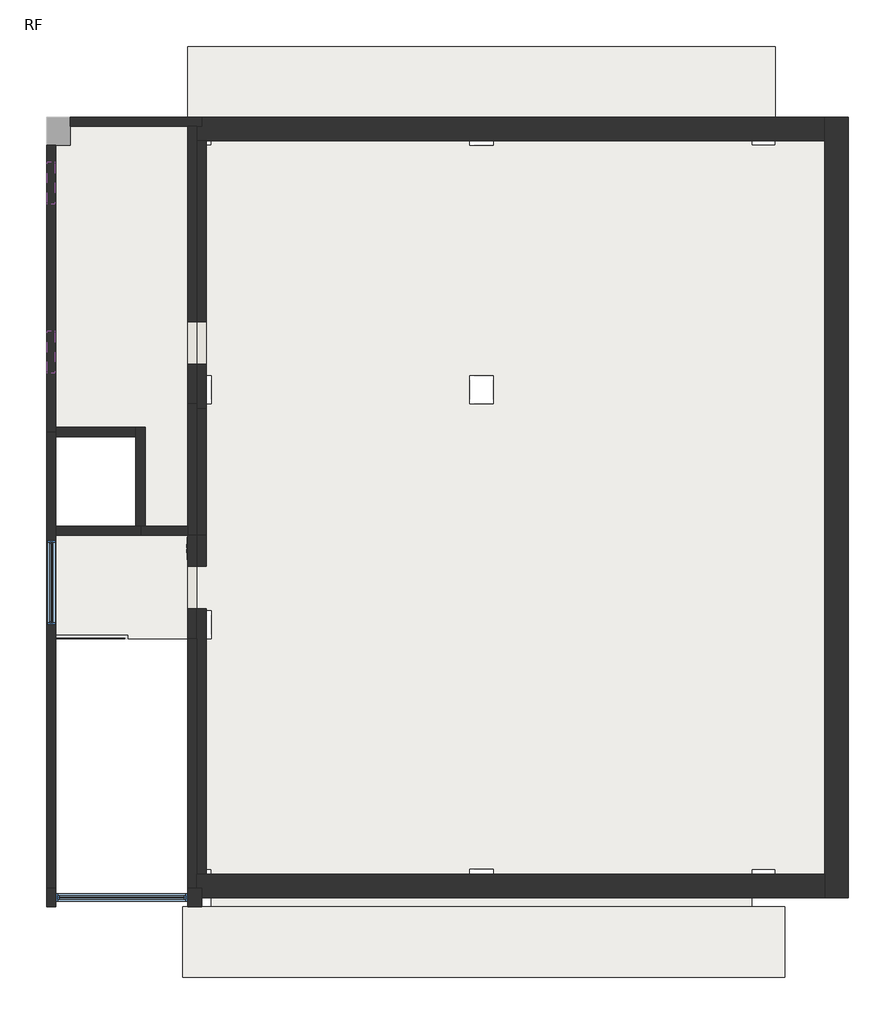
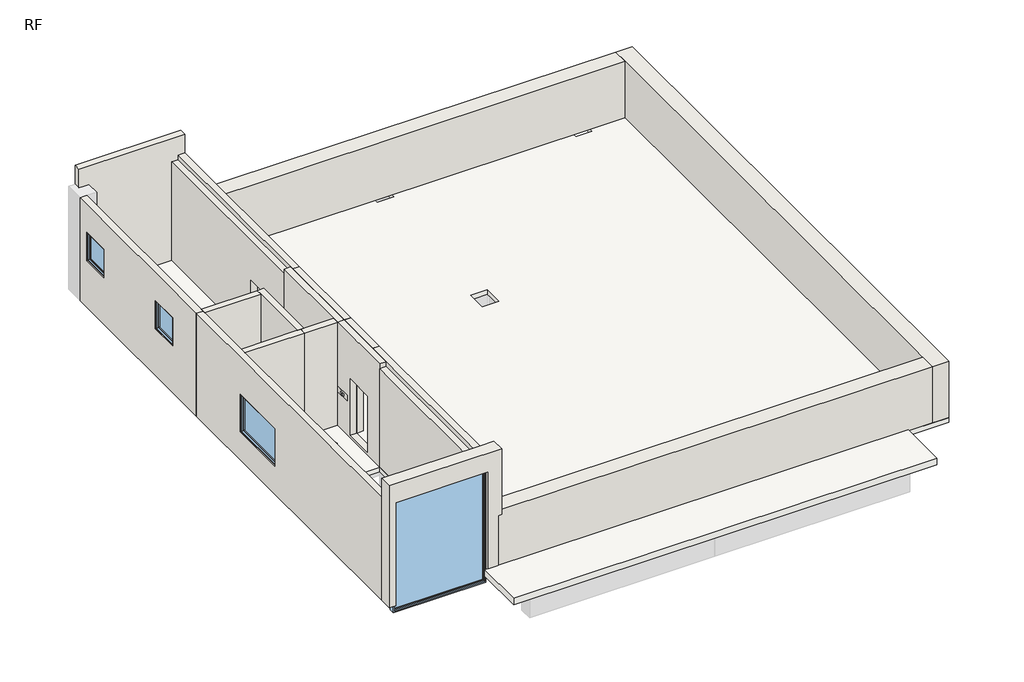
# One storey, part 1 of 2: 20 walls, 4 windows, 2 slabs.
"""IFC4 building model written with IfcOpenShell, lengths in millimetres."""

from ifc_helpers import new_model, si_unit, frame, origin, place, context, project, spatial, polyline, outline, extrude, faceted_brep, transform, mapped, element, save
from components import window_16c43cb3, window_f2f41d25, window_07c90ac9, window_3f7671e2

model = new_model("IFC4")

# Units and contexts
model_context = context("Model", 3, world=origin())
ifc_project = project(units=[si_unit("LENGTHUNIT", "METRE", prefix="MILLI")], contexts=[model_context])

# Site, building, storey
site = spatial("IfcSite", under=ifc_project)
building = spatial("IfcBuilding", under=site)
storey = spatial("IfcBuildingStorey", under=building, Name="RF", Elevation=18600.0)

# Slabs
placement = place(None, origin())
element("IfcSlab", 1, ObjectType="SL100-구조 바닥 150", at=placement, inside=storey, context=model_context, shape_type="Brep", body=[
    faceted_brep([(-50.0, 5200.0, 18450.0), (-50.0, 7400.0, 18450.0), (-50.0, 7600.0, 18450.0), (1650.0, 7600.0, 18450.0), (1650.0, 9500.0, 18450.0), (-50.0, 9500.0, 18450.0), (-50.0, 9700.0, 18450.0), (-50.0, 10200.0, 18450.0), (-50.0, 10800.0, 18450.0), (-50.0, 16100.0, 18450.0), (2750.0, 16100.0, 18450.0), (2750.0, 15700.0, 18450.0), (3150.0, 15700.0, 18450.0), (3250.0, 15700.0, 18450.0), (3250.0, 15900.0, 18450.0), (3250.0, 16300.0, 18450.0), (2750.0, 16300.0, 18450.0), (2750.0, 17800.0, 18450.0), (2937.3, 17800.0, 18450.0), (8850.0, 17800.0, 18450.0), (14750.0, 17800.0, 18450.0), (15250.0, 17800.0, 18450.0), (15250.0, 16300.0, 18450.0), (14750.0, 16300.0, 18450.0), (14750.0, 15900.0, 18450.0), (14750.0, 15700.0, 18450.0), (14850.0, 15700.0, 18450.0), (15250.0, 15700.0, 18450.0), (16800.0, 16300.0, 18450.0), (16800.0, -300.0, 18450.0), (15250.0, -300.0, 18450.0), (15250.0, 300.0, 18450.0), (14850.0, 300.0, 18450.0), (14750.0, 300.0, 18450.0), (14750.0, 100.0, 18450.0), (14750.0, -300.0, 18450.0), (14750.0, -1400.0, 18450.0), (14750.0, -1800.0, 18450.0), (8850.0, -1800.0, 18450.0), (3249.5, -1800.0, 18450.0), (3249.5, -1400.0, 18450.0), (3249.5, -300.0, 18450.0), (3250.0, -300.0, 18450.0), (3250.0, 100.0, 18450.0), (3250.0, 300.0, 18450.0), (3150.0, 300.0, 18450.0), (2750.0, 300.0, 18450.0), (2750.0, -150.0, 18450.0), (2749.5, -150.0, 18450.0), (2749.5, 5200.0, 18450.0), (2750.0, 5800.0, 18450.0), (2750.0, 5200.0, 18450.0), (3150.0, 5200.0, 18450.0), (3250.0, 5200.0, 18450.0), (3250.0, 5300.0, 18450.0), (3250.0, 5700.0, 18450.0), (3250.0, 5800.0, 18450.0), (3150.0, 5800.0, 18450.0), (2750.0, 10800.0, 18450.0), (2750.0, 10200.0, 18450.0), (3150.0, 10200.0, 18450.0), (3250.0, 10200.0, 18450.0), (3250.0, 10300.0, 18450.0), (3250.0, 10700.0, 18450.0), (3250.0, 10800.0, 18450.0), (3150.0, 10800.0, 18450.0), (8750.0, 300.0, 18450.0), (8750.0, 100.0, 18450.0), (8750.0, -300.0, 18450.0), (8850.0, -300.0, 18450.0), (9250.0, -300.0, 18450.0), (9250.0, 100.0, 18450.0), (9250.0, 300.0, 18450.0), (8850.0, 300.0, 18450.0), (8750.0, 5800.0, 18450.0), (8750.0, 5700.0, 18450.0), (8750.0, 5300.0, 18450.0), (8750.0, 5200.0, 18450.0), (8850.0, 5200.0, 18450.0), (9250.0, 5200.0, 18450.0), (9250.0, 5300.0, 18450.0), (9250.0, 5700.0, 18450.0), (9250.0, 5800.0, 18450.0), (8850.0, 5800.0, 18450.0), (8750.0, 10800.0, 18450.0), (8750.0, 10700.0, 18450.0), (8750.0, 10300.0, 18450.0), (8750.0, 10200.0, 18450.0), (8850.0, 10200.0, 18450.0), (9250.0, 10200.0, 18450.0), (9250.0, 10300.0, 18450.0), (9250.0, 10700.0, 18450.0), (9250.0, 10800.0, 18450.0), (8850.0, 10800.0, 18450.0), (14750.0, 5800.0, 18450.0), (14750.0, 5700.0, 18450.0), (14750.0, 5300.0, 18450.0), (14750.0, 5200.0, 18450.0), (14850.0, 5200.0, 18450.0), (15250.0, 5200.0, 18450.0), (15250.0, 5300.0, 18450.0), (15250.0, 5700.0, 18450.0), (15250.0, 5800.0, 18450.0), (14850.0, 5800.0, 18450.0), (14750.0, 10800.0, 18450.0), (14750.0, 10700.0, 18450.0), (14750.0, 10300.0, 18450.0), (14750.0, 10200.0, 18450.0), (14850.0, 10200.0, 18450.0), (15250.0, 10200.0, 18450.0), (15250.0, 10300.0, 18450.0), (15250.0, 10700.0, 18450.0), (15250.0, 10800.0, 18450.0), (14850.0, 10800.0, 18450.0), (8750.0, 16300.0, 18450.0), (8750.0, 15900.0, 18450.0), (8750.0, 15700.0, 18450.0), (8850.0, 15700.0, 18450.0), (9250.0, 15700.0, 18450.0), (9250.0, 15900.0, 18450.0), (9250.0, 16300.0, 18450.0), (8850.0, 16300.0, 18450.0), (-50.0, 7600.0, 18600.0), (-50.0, 5200.0, 18600.0), (2749.5, 5200.0, 18600.0), (2749.5, -150.0, 18600.0), (2750.0, -150.0, 18600.0), (2750.0, 300.0, 18600.0), (3250.0, 300.0, 18600.0), (3250.0, -300.0, 18600.0), (3249.5, -300.0, 18600.0), (3249.5, -1800.0, 18600.0), (14750.0, -1800.0, 18600.0), (14750.0, -300.0, 18600.0), (14750.0, 300.0, 18600.0), (15250.0, 300.0, 18600.0), (15250.0, -300.0, 18600.0), (16800.0, -300.0, 18600.0), (16800.0, 16300.0, 18600.0), (15250.0, 16300.0, 18600.0), (15250.0, 15700.0, 18600.0), (14750.0, 15700.0, 18600.0), (14750.0, 16300.0, 18600.0), (15250.0, 17800.0, 18600.0), (2750.0, 17800.0, 18600.0), (2750.0, 16300.0, 18600.0), (3250.0, 16300.0, 18600.0), (3250.0, 15700.0, 18600.0), (2750.0, 15700.0, 18600.0), (2750.0, 16100.0, 18600.0), (-50.0, 16100.0, 18600.0), (-50.0, 9500.0, 18600.0), (1650.0, 9500.0, 18600.0), (1650.0, 7600.0, 18600.0), (8750.0, 10200.0, 18600.0), (8750.0, 10800.0, 18600.0), (9250.0, 10800.0, 18600.0), (9250.0, 10200.0, 18600.0), (8750.0, -300.0, 18600.0), (8750.0, 300.0, 18600.0), (9250.0, 300.0, 18600.0), (9250.0, -300.0, 18600.0), (2750.0, 5200.0, 18600.0), (2750.0, 5800.0, 18600.0), (3250.0, 5800.0, 18600.0), (3250.0, 5200.0, 18600.0), (2750.0, 10200.0, 18600.0), (2750.0, 10800.0, 18600.0), (3250.0, 10800.0, 18600.0), (3250.0, 10200.0, 18600.0), (8750.0, 15700.0, 18600.0), (8750.0, 16300.0, 18600.0), (9250.0, 16300.0, 18600.0), (9250.0, 15700.0, 18600.0), (8750.0, 5800.0, 18590.0), (8750.0, 5200.0, 18590.0), (9250.0, 5800.0, 18590.0), (9250.0, 5200.0, 18590.0), (14750.0, 5800.0, 18590.0), (14750.0, 5200.0, 18590.0), (15250.0, 5800.0, 18590.0), (15250.0, 5200.0, 18590.0), (14750.0, 10800.0, 18590.0), (14750.0, 10200.0, 18590.0), (15250.0, 10800.0, 18590.0), (15250.0, 10200.0, 18590.0)], [[[0, 1, 2, 3, 4, 5, 6, 7, 8, 9, 10, 11, 12, 13, 14, 15, 16, 17, 18, 19, 20, 21, 22, 23, 24, 25, 26, 27, 22, 28, 29, 30, 31, 32, 33, 34, 35, 36, 37, 38, 39, 40, 41, 42, 43, 44, 45, 46, 47, 48, 49], [50, 51, 52, 53, 54, 55, 56, 57], [58, 59, 60, 61, 62, 63, 64, 65], [66, 67, 68, 69, 70, 71, 72, 73], [74, 75, 76, 77, 78, 79, 80, 81, 82, 83], [84, 85, 86, 87, 88, 89, 90, 91, 92, 93], [94, 95, 96, 97, 98, 99, 100, 101, 102, 103], [104, 105, 106, 107, 108, 109, 110, 111, 112, 113], [114, 115, 116, 117, 118, 119, 120, 121]], [[122, 123, 124, 125, 126, 127, 128, 129, 130, 131, 132, 133, 134, 135, 136, 137, 138, 139, 140, 141, 142, 139, 143, 144, 145, 146, 147, 148, 149, 150, 151, 152, 153], [154, 155, 156, 157], [158, 159, 160, 161], [162, 163, 164, 165], [166, 167, 168, 169], [170, 171, 172, 173]], [[2, 1, 0, 123, 122]], [[10, 9, 150, 149]], [[124, 49, 48, 125]], [[0, 49, 124, 123]], [[144, 17, 16, 145]], [[21, 20, 19, 18, 17, 144, 143]], [[29, 28, 138, 137]], [[131, 39, 38, 37, 132]], [[30, 29, 137, 136]], [[22, 21, 143, 139]], [[28, 22, 139, 138]], [[3, 2, 122, 153]], [[4, 3, 153, 152]], [[5, 4, 152, 151]], [[9, 8, 7, 6, 5, 151, 150]], [[46, 127, 126, 47]], [[44, 128, 127, 46, 45]], [[128, 44, 43, 42, 129]], [[129, 42, 41, 130]], [[134, 33, 32, 31, 135]], [[50, 163, 162, 51]], [[56, 164, 163, 50, 57]], [[164, 56, 55, 54, 53, 165]], [[165, 53, 52, 51, 162]], [[58, 167, 166, 59]], [[64, 168, 167, 58, 65]], [[168, 64, 63, 62, 61, 169]], [[169, 61, 60, 59, 166]], [[148, 11, 10, 149]], [[15, 146, 145, 16]], [[146, 15, 14, 13, 147]], [[11, 148, 147, 13, 12]], [[66, 159, 158, 68, 67]], [[159, 66, 73, 72, 160]], [[160, 72, 71, 70, 161]], [[68, 158, 161, 70, 69]], [[174, 175, 77, 76, 75, 74]], [[176, 174, 74, 83, 82]], [[177, 176, 82, 81, 80, 79]], [[175, 177, 79, 78, 77]], [[175, 174, 176, 177]], [[84, 155, 154, 87, 86, 85]], [[155, 84, 93, 92, 156]], [[156, 92, 91, 90, 89, 157]], [[157, 89, 88, 87, 154]], [[170, 116, 115, 114, 171]], [[171, 114, 121, 120, 172]], [[172, 120, 119, 118, 173]], [[116, 170, 173, 118, 117]], [[178, 179, 97, 96, 95, 94]], [[180, 178, 94, 103, 102]], [[181, 180, 102, 101, 100, 99]], [[179, 181, 99, 98, 97]], [[179, 178, 180, 181]], [[182, 183, 107, 106, 105, 104]], [[184, 182, 104, 113, 112]], [[185, 184, 112, 111, 110, 109]], [[183, 185, 109, 108, 107]], [[183, 182, 184, 185]], [[23, 142, 141, 25, 24]], [[22, 139, 142, 23]], [[139, 22, 27, 140]], [[140, 27, 26, 25, 141]], [[41, 40, 39, 131, 130]], [[48, 47, 126, 125]], [[33, 134, 133, 132, 37, 36, 35, 34]], [[135, 31, 30, 136]]]),
])
element("IfcSlab", 2, ObjectType="SL100-구조 바닥 200", at=placement, inside=storey, context=model_context, shape_type="SweptSolid", body=[
    extrude(outline(polyline([(2650.0, -2000.0), (2650.0, -500.0), (15450.0, -500.0), (15450.0, -2000.0), (2650.0, -2000.0)])), frame((0.0, 0.0, 18600.0), z_axis=(0.0, 0.0, 1.0), x_axis=(1.0, 0.0, 0.0)), (0.0, 0.0, 1.0), 200.0),
])

# Walls
element("IfcWall", 3, ObjectType="WA100-구조 벽 500", at=placement, inside=storey, context=model_context, shape_type="Brep", body=[
    faceted_brep([(16800.0, -300.0, 18600.0), (16800.0, 16300.0, 18600.0), (16800.0, 16300.0, 20400.0), (16800.0, -300.0, 20400.0), (16300.0, -300.0, 18600.0), (16300.0, -300.0, 20400.0), (16300.0, 200.0, 20400.0), (16300.0, 15800.0, 20400.0), (16300.0, 16300.0, 20400.0), (16300.0, 16300.0, 18600.0), (16300.0, 15800.0, 18600.0), (16300.0, 200.0, 18600.0)], [[[0, 1, 2, 3]], [[4, 5, 6, 7, 8, 9, 10, 11]], [[1, 0, 4, 11, 10, 9]], [[3, 2, 8, 7, 6, 5]], [[0, 3, 5, 4]], [[2, 1, 9, 8]]]),
])
element("IfcWall", 4, ObjectType="WA100-구조 벽 500", at=placement, inside=storey, context=model_context, shape_type="Brep", body=[
    faceted_brep([(2950.0, -300.0, 20400.0), (2950.0, -300.0, 18600.0), (3250.0, -300.0, 18600.0), (8750.0, -300.0, 18600.0), (9250.0, -300.0, 18600.0), (14750.0, -300.0, 18600.0), (15250.0, -300.0, 18600.0), (16300.0, -300.0, 18600.0), (16300.0, -300.0, 20400.0), (2950.0, 200.0, 18600.0), (2950.0, 200.0, 20400.0), (16300.0, 200.0, 20400.0), (16300.0, 200.0, 18600.0), (2950.0, -100.0, 18600.0)], [[[0, 1, 2, 3, 4, 5, 6, 7, 8]], [[9, 10, 11, 12]], [[7, 6, 5, 4, 3, 2, 1, 13, 9, 12]], [[0, 8, 11, 10]], [[8, 7, 12, 11]], [[0, 10, 9, 13, 1]]]),
])
element("IfcWall", 5, ObjectType="WA100-구조 벽 500", at=placement, inside=storey, context=model_context, shape_type="Brep", body=[
    faceted_brep([(2950.0, 15800.0, 18600.0), (16300.0, 15800.0, 18600.0), (16300.0, 15800.0, 20400.0), (2950.0, 15800.0, 20400.0), (2950.0, 16300.0, 18600.0), (2950.0, 16300.0, 20400.0), (3050.0, 16300.0, 20400.0), (3150.0, 16300.0, 20400.0), (16300.0, 16300.0, 20400.0), (16300.0, 16300.0, 18600.0), (15250.0, 16300.0, 18600.0), (14750.0, 16300.0, 18600.0), (9250.0, 16300.0, 18600.0), (8750.0, 16300.0, 18600.0), (3250.0, 16300.0, 18600.0), (2950.0, 16100.0, 18600.0)], [[[0, 1, 2, 3]], [[4, 5, 6, 7, 8, 9, 10, 11, 12, 13, 14]], [[1, 0, 15, 4, 14, 13, 12, 11, 10, 9]], [[3, 2, 8, 7, 6, 5]], [[0, 3, 5, 4, 15]], [[2, 1, 9, 8]]]),
])
element("IfcWall", 6, ObjectType="WA100-구조 벽 200", at=placement, inside=storey, context=model_context, shape_type="Brep", body=[
    faceted_brep([(-50.0, -100.0, 18600.0), (-50.0, 7400.0, 18600.0), (-50.0, 7600.0, 18600.0), (-50.0, 9500.0, 18600.0), (-50.0, 9600.0, 18600.0), (-50.0, 9600.0, 21900.0), (-50.0, 9500.0, 21900.0), (-50.0, 7600.0, 21900.0), (-50.0, 7400.0, 21900.0), (-50.0, -100.0, 21900.0), (-50.0, 7300.0, 20700.0), (-50.0, 7300.0, 19500.0), (-50.0, 5500.0, 19500.0), (-50.0, 5500.0, 20700.0), (-250.0, 9600.0, 18600.0), (-250.0, -100.0, 18600.0), (-250.0, -100.0, 21900.0), (-250.0, 9600.0, 21900.0), (-250.0, 7300.0, 19500.0), (-250.0, 7300.0, 20700.0), (-250.0, 5500.0, 20700.0), (-250.0, 5500.0, 19500.0)], [[[0, 1, 2, 3, 4, 5, 6, 7, 8, 9], [10, 11, 12, 13]], [[14, 15, 16, 17], [18, 19, 20, 21]], [[4, 3, 2, 1, 0, 15, 14]], [[5, 4, 14, 17]], [[9, 8, 7, 6, 5, 17, 16]], [[10, 19, 18, 11]], [[11, 18, 21, 12]], [[12, 21, 20, 13]], [[19, 10, 13, 20]], [[0, 9, 16, 15]]]),
])
element("IfcWall", 7, ObjectType="WA100-구조 벽 200", at=placement, inside=storey, context=model_context, shape_type="Brep", body=[
    faceted_brep([(-50.0, 7400.0, 18600.0), (1750.0, 7400.0, 18600.0), (1750.0, 7400.0, 21900.0), (-50.0, 7400.0, 21900.0), (-50.0, 7600.0, 18600.0), (-50.0, 7600.0, 21900.0), (1650.0, 7600.0, 21900.0), (1750.0, 7600.0, 21900.0), (1750.0, 7600.0, 18600.0), (1650.0, 7600.0, 18600.0)], [[[0, 1, 2, 3]], [[4, 5, 6, 7, 8, 9]], [[1, 0, 4, 9, 8]], [[2, 1, 8, 7]], [[0, 3, 5, 4]], [[3, 2, 7, 6, 5]]]),
])
element("IfcWall", 8, ObjectType="WA100-구조 벽 200", at=placement, inside=storey, context=model_context, shape_type="Brep", body=[
    faceted_brep([(1850.0, 7600.0, 18600.0), (1850.0, 9700.0, 18600.0), (1850.0, 9700.0, 21900.0), (1850.0, 7600.0, 21900.0), (1650.0, 7600.0, 18600.0), (1650.0, 7600.0, 21900.0), (1650.0, 9500.0, 21900.0), (1650.0, 9700.0, 21900.0), (1650.0, 9700.0, 18600.0), (1650.0, 9500.0, 18600.0), (1750.0, 7600.0, 18600.0), (1750.0, 7600.0, 21900.0)], [[[0, 1, 2, 3]], [[4, 5, 6, 7, 8, 9]], [[1, 0, 10, 4, 9, 8]], [[2, 1, 8, 7]], [[3, 2, 7, 6, 5, 11]], [[0, 3, 11, 5, 4, 10]]]),
])
element("IfcWall", 9, ObjectType="WA100-구조 벽 200", at=placement, inside=storey, context=model_context, shape_type="Brep", body=[
    faceted_brep([(-50.0, 9500.0, 18600.0), (1650.0, 9500.0, 18600.0), (1650.0, 9500.0, 21900.0), (-50.0, 9500.0, 21900.0), (-50.0, 9700.0, 18600.0), (-50.0, 9700.0, 21900.0), (1650.0, 9700.0, 21900.0), (1650.0, 9700.0, 18600.0), (-50.0, 9600.0, 18600.0), (-50.0, 9600.0, 21900.0)], [[[0, 1, 2, 3]], [[4, 5, 6, 7]], [[1, 0, 8, 4, 7]], [[2, 1, 7, 6]], [[3, 2, 6, 5, 9]], [[0, 3, 9, 5, 4, 8]]]),
])
element("IfcWall", 10, ObjectType="WA100-구조 벽 200", at=placement, inside=storey, context=model_context, shape_type="Brep", body=[
    faceted_brep([(2950.0, 5200.0, 18600.0), (2950.0, 7400.0, 18600.0), (2950.0, 7400.0, 21900.0), (2950.0, 5200.0, 21900.0), (2950.0, 5200.0, 21750.0), (2950.0, 5845.0, 18680.0), (2950.0, 5845.0, 20480.0), (2950.0, 6745.0, 20480.0), (2950.0, 6745.0, 18680.0), (2750.0, 7400.0, 18600.0), (2750.0, 5800.0, 18600.0), (2750.0, 5200.0, 18600.0), (2750.0, 5200.0, 21750.0), (2750.0, 5200.0, 21900.0), (2750.0, 7400.0, 21900.0), (2750.0, 5845.0, 20480.0), (2750.0, 5845.0, 18680.0), (2750.0, 6745.0, 18680.0), (2750.0, 6745.0, 20480.0)], [[[0, 1, 2, 3, 4], [5, 6, 7, 8]], [[9, 10, 11, 12, 13, 14], [15, 16, 17, 18]], [[1, 0, 11, 10, 9]], [[2, 1, 9, 14]], [[3, 2, 14, 13]], [[0, 4, 3, 13, 12, 11]], [[5, 16, 15, 6]], [[6, 15, 18, 7]], [[7, 18, 17, 8]], [[16, 5, 8, 17]]]),
])
element("IfcWall", 11, ObjectType="WA100-구조 벽 200", at=placement, inside=storey, context=model_context, shape_type="Brep", body=[
    faceted_brep([(2950.0, -100.0, 21750.0), (2950.0, -100.0, 18600.0), (2950.0, 200.0, 18600.0), (2950.0, 5200.0, 18600.0), (2950.0, 5200.0, 21750.0), (2750.0, -100.0, 18600.0), (2750.0, -100.0, 21750.0), (2750.0, 5200.0, 21750.0), (2750.0, 5200.0, 18600.0), (2750.0, 300.0, 18600.0)], [[[0, 1, 2, 3, 4]], [[5, 6, 7, 8, 9]], [[3, 2, 1, 5, 9, 8]], [[4, 3, 8, 7]], [[0, 4, 7, 6]], [[0, 6, 5, 1]]]),
])
element("IfcWall", 12, ObjectType="WA100-구조 벽 200", at=placement, inside=storey, context=model_context, shape_type="Brep", body=[
    faceted_brep([(2750.0, 16100.0, 21750.0), (2750.0, 16100.0, 18600.0), (2750.0, 15700.0, 18600.0), (2750.0, 10800.0, 18600.0), (2750.0, 10200.0, 18600.0), (2750.0, 10200.0, 21750.0), (2750.0, 11045.0, 18680.0), (2750.0, 11945.0, 18680.0), (2750.0, 11945.0, 20480.0), (2750.0, 11045.0, 20480.0), (2950.0, 16100.0, 18600.0), (2950.0, 16100.0, 21750.0), (2950.0, 10200.0, 21750.0), (2950.0, 10200.0, 18600.0), (2950.0, 15800.0, 18600.0), (2950.0, 11045.0, 18680.0), (2950.0, 11045.0, 20480.0), (2950.0, 11945.0, 20480.0), (2950.0, 11945.0, 18680.0)], [[[0, 1, 2, 3, 4, 5], [6, 7, 8, 9]], [[10, 11, 12, 13, 14], [15, 16, 17, 18]], [[4, 3, 2, 1, 10, 14, 13]], [[5, 4, 13, 12]], [[0, 5, 12, 11]], [[16, 15, 6, 9]], [[17, 16, 9, 8]], [[18, 17, 8, 7]], [[15, 18, 7, 6]], [[0, 11, 10, 1]]]),
])
element("IfcWall", 13, ObjectType="WA100-구조 벽 200", at=placement, inside=storey, context=model_context, shape_type="Brep", body=[
    faceted_brep([(3150.0, 16100.0, 22500.0), (-50.0, 16100.0, 22500.0), (-50.0, 16100.0, 22300.0), (-50.0, 16100.0, 21900.0), (250.0, 16100.0, 21900.0), (250.0, 16100.0, 18600.0), (2750.0, 16100.0, 18600.0), (2950.0, 16100.0, 18600.0), (3050.0, 16100.0, 18600.0), (3050.0, 16100.0, 20400.0), (3150.0, 16100.0, 20400.0), (-50.0, 16300.0, 22500.0), (3150.0, 16300.0, 22500.0), (3150.0, 16300.0, 20400.0), (3050.0, 16300.0, 20400.0), (3050.0, 16300.0, 18600.0), (2750.0, 16300.0, 18600.0), (250.0, 16300.0, 18600.0), (250.0, 16300.0, 21900.0), (-50.0, 16300.0, 21900.0)], [[[0, 1, 2, 3, 4, 5, 6, 7, 8, 9, 10]], [[11, 12, 13, 14, 15, 16, 17, 18, 19]], [[15, 8, 7, 6, 5, 17, 16]], [[1, 0, 12, 11]], [[18, 4, 3, 19]], [[4, 18, 17, 5]], [[1, 11, 19, 3, 2]], [[8, 15, 14, 9]], [[10, 9, 14, 13]], [[10, 13, 12, 0]]]),
])
element("IfcWall", 14, ObjectType="WA100-구조 벽 400", at=placement, inside=storey, context=model_context, shape_type="Brep", body=[
    faceted_brep([(-250.0, -100.0, 22500.0), (2750.0, -100.0, 22500.0), (3150.0, -100.0, 22500.0), (3150.0, -100.0, 21900.0), (3150.0, -100.0, 20400.0), (3050.0, -100.0, 20400.0), (3050.0, -100.0, 18600.0), (2750.0, -100.0, 18600.0), (2750.0, -100.0, 21900.0), (-50.0, -100.0, 21900.0), (-50.0, -100.0, 18600.0), (-250.0, -100.0, 18600.0), (3150.0, -500.0, 22500.0), (-250.0, -500.0, 22500.0), (-250.0, -500.0, 18600.0), (-50.0, -500.0, 18600.0), (-50.0, -500.0, 21900.0), (2750.0, -500.0, 21900.0), (2750.0, -500.0, 18600.0), (3050.0, -500.0, 18600.0), (3050.0, -500.0, 20400.0), (3150.0, -500.0, 20400.0)], [[[0, 1, 2, 3, 4, 5, 6, 7, 8, 9, 10, 11]], [[12, 13, 14, 15, 16, 17, 18, 19, 20, 21]], [[6, 19, 18, 7]], [[14, 11, 10, 15]], [[2, 1, 0, 13, 12]], [[9, 16, 15, 10]], [[17, 8, 7, 18]], [[16, 9, 8, 17]], [[11, 14, 13, 0]], [[19, 6, 5, 20]], [[21, 20, 5, 4]], [[2, 12, 21, 4, 3]]]),
])
element("IfcWall", 15, ObjectType="WA100-구조 벽 200", at=placement, inside=storey, context=model_context, shape_type="Brep", body=[
    faceted_brep([(2950.0, 15800.0, 18600.0), (2950.0, 10100.0, 18600.0), (2950.0, 10100.0, 18681.0), (2950.0, 10100.0, 21900.0), (2950.0, 16100.0, 21900.0), (2950.0, 16100.0, 20400.0), (2950.0, 15800.0, 20400.0), (2950.0, 11045.0, 18680.0), (2950.0, 11945.0, 18680.0), (2950.0, 11945.0, 20480.0), (2950.0, 11045.0, 20480.0), (3150.0, 15800.0, 18600.0), (3150.0, 15800.0, 20400.0), (3150.0, 16100.0, 20400.0), (3150.0, 16100.0, 21900.0), (3150.0, 10100.0, 21900.0), (3150.0, 10100.0, 18681.0), (3150.0, 10100.0, 18600.0), (3150.0, 11045.0, 18680.0), (3150.0, 11045.0, 20480.0), (3150.0, 11945.0, 20480.0), (3150.0, 11945.0, 18680.0)], [[[0, 1, 2, 3, 4, 5, 6], [7, 8, 9, 10]], [[11, 12, 13, 14, 15, 16, 17], [18, 19, 20, 21]], [[1, 0, 11, 17]], [[3, 2, 1, 17, 16, 15]], [[4, 3, 15, 14]], [[19, 18, 7, 10]], [[20, 19, 10, 9]], [[21, 20, 9, 8]], [[18, 21, 8, 7]], [[5, 13, 12, 6]], [[0, 6, 12, 11]], [[5, 4, 14, 13]]]),
])
element("IfcWall", 16, ObjectType="WA100-구조 벽 200", at=placement, inside=storey, context=model_context, shape_type="SweptSolid", body=[
    extrude(outline(polyline([(2950.0, 7400.0), (2950.0, 10100.0), (3150.0, 10100.0), (3150.0, 7400.0), (2950.0, 7400.0)])), frame((0.0, 0.0, 18681.0), z_axis=(0.0, 0.0, 1.0), x_axis=(1.0, 0.0, 0.0)), (0.0, 0.0, 1.0), 3219.0),
])
element("IfcWall", 17, ObjectType="WA100-구조 벽 200", at=placement, inside=storey, context=model_context, shape_type="Brep", body=[
    faceted_brep([(2950.0, -100.0, 21900.0), (2950.0, 5900.0, 21900.0), (2950.0, 5900.0, 20480.0), (2950.0, 5845.0, 20480.0), (2950.0, 5845.0, 18680.0), (2950.0, 200.0, 18680.0), (2950.0, 200.0, 20400.0), (2950.0, -100.0, 20400.0), (3150.0, 5900.0, 21900.0), (3150.0, -100.0, 21900.0), (3150.0, -100.0, 20400.0), (3150.0, 200.0, 20400.0), (3150.0, 200.0, 18680.0), (3150.0, 5845.0, 18680.0), (3150.0, 5845.0, 20480.0), (3150.0, 5900.0, 20480.0), (3050.0, -100.0, 20400.0)], [[[0, 1, 2, 3, 4, 5, 6, 7]], [[8, 9, 10, 11, 12, 13, 14, 15]], [[12, 5, 4, 13]], [[1, 0, 9, 8]], [[1, 8, 15, 2]], [[7, 6, 11, 10, 16]], [[6, 5, 12, 11]], [[0, 7, 16, 10, 9]], [[3, 14, 13, 4]], [[14, 3, 2, 15]]]),
])
element("IfcWall", 18, ObjectType="A-두겁석-T10", at=placement, inside=storey, context=model_context, shape_type="SweptSolid", body=[
    extrude(outline(polyline([(2750.0, 7361.0810174), (2750.0, 6886.0810174), (2740.0, 6886.0810174), (2740.0, 7361.0810174), (2750.0, 7361.0810174)])), frame((0.0, 0.0, 19700.0), z_axis=(0.0, 0.0, 1.0), x_axis=(1.0, 0.0, 0.0)), (0.0, 0.0, 1.0), 170.0),
])
element("IfcWall", 19, ObjectType="WA100-구조 벽 200", at=placement, inside=storey, context=model_context, shape_type="Brep", body=[
    faceted_brep([(-50.0, 9600.0, 21900.0), (-50.0, 9600.0, 18600.0), (-50.0, 9700.0, 18600.0), (-50.0, 15700.0, 18600.0), (-50.0, 15700.0, 21900.0), (-50.0, 9700.0, 21900.0), (-50.0, 10850.0, 21000.0), (-50.0, 11750.0, 21000.0), (-50.0, 11750.0, 20100.0), (-50.0, 10850.0, 20100.0), (-50.0, 14450.0, 21000.0), (-50.0, 15350.0, 21000.0), (-50.0, 15350.0, 20100.0), (-50.0, 14450.0, 20100.0), (-250.0, 9600.0, 18600.0), (-250.0, 9600.0, 21900.0), (-250.0, 15700.0, 21900.0), (-250.0, 15700.0, 18600.0), (-250.0, 11750.0, 21000.0), (-250.0, 10850.0, 21000.0), (-250.0, 10850.0, 20100.0), (-250.0, 11750.0, 20100.0), (-250.0, 15350.0, 21000.0), (-250.0, 14450.0, 21000.0), (-250.0, 14450.0, 20100.0), (-250.0, 15350.0, 20100.0)], [[[0, 1, 2, 3, 4, 5], [6, 7, 8, 9], [10, 11, 12, 13]], [[14, 15, 16, 17], [18, 19, 20, 21], [22, 23, 24, 25]], [[1, 14, 17, 3, 2]], [[15, 0, 5, 4, 16]], [[1, 0, 15, 14]], [[19, 18, 7, 6]], [[18, 21, 8, 7]], [[21, 20, 9, 8]], [[20, 19, 6, 9]], [[11, 10, 23, 22]], [[10, 13, 24, 23]], [[13, 12, 25, 24]], [[12, 11, 22, 25]], [[4, 3, 17, 16]]]),
])
element("IfcWall", 20, ObjectType="WA100-구조 벽 200", at=placement, inside=storey, context=model_context, shape_type="Brep", body=[
    faceted_brep([(1750.0, 7400.0, 18600.0), (2750.0, 7400.0, 18600.0), (2750.0, 7400.0, 21900.0), (1750.0, 7400.0, 21900.0), (1750.0, 7600.0, 18600.0), (1750.0, 7600.0, 21900.0), (1850.0, 7600.0, 21900.0), (2750.0, 7600.0, 21900.0), (2750.0, 7600.0, 18600.0), (1850.0, 7600.0, 18600.0)], [[[0, 1, 2, 3]], [[4, 5, 6, 7, 8, 9]], [[1, 0, 4, 9, 8]], [[0, 3, 5, 4]], [[2, 1, 8, 7]], [[3, 2, 7, 6, 5]]]),
])
element("IfcWall", 21, ObjectType="WA100-구조 벽 200", at=placement, inside=storey, context=model_context, shape_type="SweptSolid", body=[
    extrude(outline(polyline([(5900.0, 21900.0), (7400.0, 21900.0), (7400.0, 18681.0), (6745.0, 18681.0), (6745.0, 20480.0), (5900.0, 20480.0), (5900.0, 21900.0)])), frame((2950.0, 0.0, 0.0), z_axis=(1.0, 0.0, 0.0), x_axis=(0.0, 1.0, 0.0)), (0.0, 0.0, 1.0), 200.0),
])
element("IfcWall", 22, ObjectType="WA100-구조 벽 200", at=placement, inside=storey, context=model_context, shape_type="Brep", body=[
    faceted_brep([(2950.0, 7400.0, 18600.0), (2950.0, 10200.0, 18600.0), (2950.0, 10200.0, 21750.0), (2950.0, 10200.0, 21900.0), (2950.0, 7400.0, 21900.0), (2750.0, 7400.0, 18600.0), (2750.0, 7400.0, 21900.0), (2750.0, 7600.0, 21900.0), (2750.0, 10200.0, 21900.0), (2750.0, 10200.0, 21750.0), (2750.0, 10200.0, 18600.0), (2750.0, 7600.0, 18600.0)], [[[0, 1, 2, 3, 4]], [[5, 6, 7, 8, 9, 10, 11]], [[1, 0, 5, 11, 10]], [[3, 2, 1, 10, 9, 8]], [[4, 3, 8, 7, 6]], [[0, 4, 6, 5]]]),
])

# Windows
window_shape = window_16c43cb3(model_context)
element("IfcWindow", 23, ObjectType="WD000-창 : WD000-창 900x900", at=placement, inside=storey, context=model_context, shape_type="MappedRepresentation", body=[
    mapped(window_shape, transform((-151.3569777, 11300.0, 19300.0), x_axis=(0.0, -1.0, 0.0), y_axis=(1.0, 0.0, 0.0), z_axis=(0.0, 0.0, 1.0))),
])
window_2_shape = window_f2f41d25(model_context)
element("IfcWindow", 24, ObjectType="WD000-창 : WD000-창 900x900", at=placement, inside=storey, context=model_context, shape_type="MappedRepresentation", body=[
    mapped(window_2_shape, transform((-151.3569777, 14900.0, 19300.0), x_axis=(0.0, 1.0, 0.0), y_axis=(-1.0, 0.0, 0.0), z_axis=(0.0, 0.0, 1.0))),
])
window_3_shape = window_07c90ac9(model_context)
element("IfcWindow", 25, ObjectType="WD000-창 : WD000-창 1800x1200", at=placement, inside=storey, context=model_context, shape_type="MappedRepresentation", body=[
    mapped(window_3_shape, transform((-148.6430223, 6400.0, 18700.0), x_axis=(0.0, 1.0, 0.0), y_axis=(-1.0, 0.0, 0.0), z_axis=(0.0, 0.0, 1.0))),
])
window_4_shape = window_3f7671e2(model_context)
element("IfcWindow", 26, ObjectType="WD000-창 : WD000-창 2800x3600", at=placement, inside=storey, context=model_context, shape_type="MappedRepresentation", body=[
    mapped(window_4_shape, transform((1350.0, -298.6430223, 17500.0), x_axis=(-1.0, 0.0, 0.0), y_axis=(0.0, -1.0, 0.0), z_axis=(0.0, 0.0, 1.0))),
])

save(model, "model.ifc")
